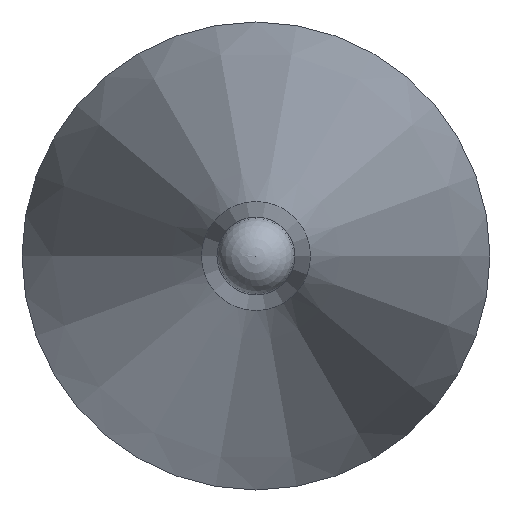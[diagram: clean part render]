
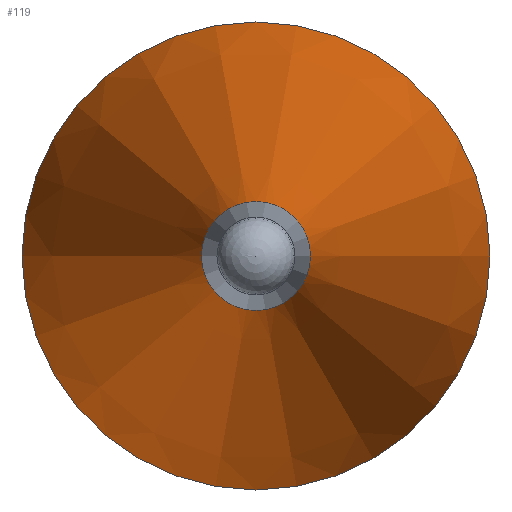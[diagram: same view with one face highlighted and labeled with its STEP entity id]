
A CAD part, left-side view. The second image highlights one B-rep face of the part: STEP entity #119.
In plain terms, the highlighted conical face has half-angle 12 degrees and reference radius 3 mm.
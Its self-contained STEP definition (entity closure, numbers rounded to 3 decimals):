
#97=CONICAL_SURFACE('',#194,3.,12.);
#106=FACE_BOUND('',#134,.T.);
#107=FACE_BOUND('',#135,.T.);
#119=ADVANCED_FACE('',(#106,#107),#97,.T.);
#134=EDGE_LOOP('',(#150));
#135=EDGE_LOOP('',(#151));
#150=ORIENTED_EDGE('',*,*,#172,.T.);
#151=ORIENTED_EDGE('',*,*,#173,.F.);
#164=VERTEX_POINT('',#249);
#165=VERTEX_POINT('',#252);
#172=EDGE_CURVE('',#164,#164,#180,.T.);
#173=EDGE_CURVE('',#165,#165,#181,.T.);
#180=CIRCLE('',#191,0.698);
#181=CIRCLE('',#193,3.);
#191=AXIS2_PLACEMENT_3D('',#248,#215,#216);
#193=AXIS2_PLACEMENT_3D('',#251,#219,#220);
#194=AXIS2_PLACEMENT_3D('',#253,#221,#222);
#215=DIRECTION('',(1.,0.,0.));
#216=DIRECTION('',(0.,1.,0.));
#219=DIRECTION('',(1.,0.,0.));
#220=DIRECTION('',(0.,1.,0.));
#221=DIRECTION('',(1.,0.,0.));
#222=DIRECTION('',(0.,1.,0.));
#248=CARTESIAN_POINT('',(7908.912,6103.288,0.));
#249=CARTESIAN_POINT('',(7908.912,6103.986,0.));
#251=CARTESIAN_POINT('',(7919.741,6103.288,0.));
#252=CARTESIAN_POINT('',(7919.741,6106.288,0.));
#253=CARTESIAN_POINT('',(7919.741,6103.288,0.));
